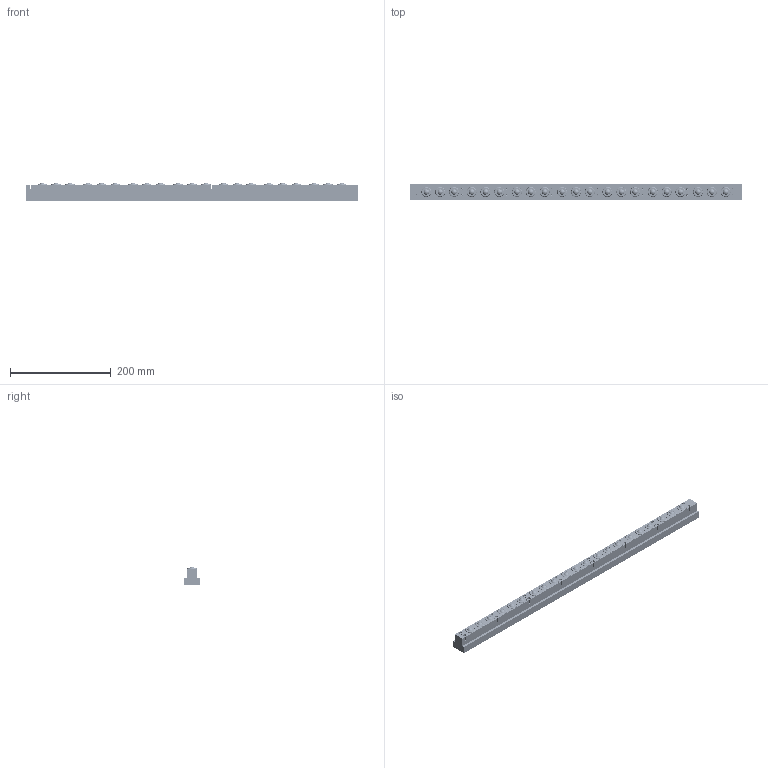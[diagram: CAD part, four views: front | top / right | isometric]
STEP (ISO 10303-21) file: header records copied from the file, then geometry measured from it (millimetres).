
FILE_DESCRIPTION(/* description */ (''),/* implementation_level */ '2;1');
FILE_NAME(/* name */ 'Z:\34-Tei\01-web 3Dデータ\44-ISR-22T\X2\578B\X0\\ISR-22T-660.stp',/* time_stamp */ '2015-01-16T11:14:57+09:00',/* author */ ('yamaki'),/* organization */ (''),/* preprocessor_version */ 'ST-DEVELOPER v15.6',/* originating_system */ 'Autodesk Inventor 2015',/* authorisation */ '');
FILE_SCHEMA (('AUTOMOTIVE_DESIGN { 1 0 10303 214 3 1 1 }'));
Length unit declared in the file: millimetre
Products named in the file (9): 4A03SL; JIS B 1176 - M3 x 10; A213AA; 4A03PS; JIS B 1111 - Csunk M4 x 8 - H; 4A03BA-07; 4A03TB; 4A03CB; 4A03AA
Bounding box: 660 x 30 x 36.96 mm (x, y, z)
Volume: 458846.6 mm3; surface area: 279578.2 mm2
Topology: 128 solids, 128 shells, 3382 faces, 8176 edges, 5197 vertices
Faces by surface type: plane 1216, cone 958, cylinder 726, torus 461, sphere 21
Full cylindrical faces by diameter (mm): 2 x15, 2.459 x16, 2.5 x14, 3 x16, 3.242 x60, 3.5 x16, 3.571 x60, 4 x60, 4.5 x60, 5.5 x16, 6 x21, 6.1 x21, 6.2 x8, 8.4 x60, 8.566 x1, 13 x21, 16.5 x21, 19 x21, 19.9 x21, 20 x63, 23.8 x42, 24 x21
Entity records: 10312 total; most frequent: DIRECTION 1866, CARTESIAN_POINT 1801, ORIENTED_EDGE 1268, AXIS2_PLACEMENT_3D 805, EDGE_LOOP 636, EDGE_CURVE 634, VERTEX_POINT 480, CIRCLE 336
